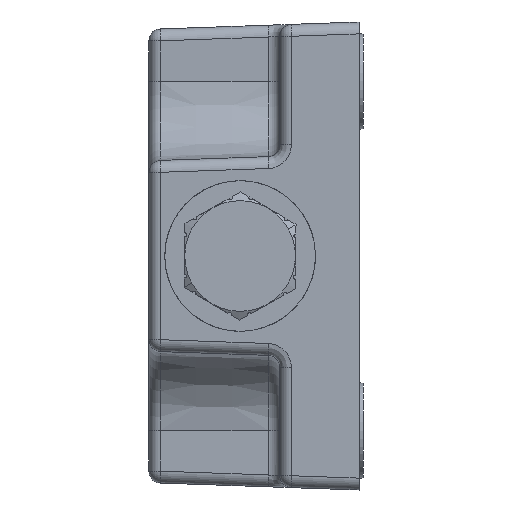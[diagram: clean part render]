
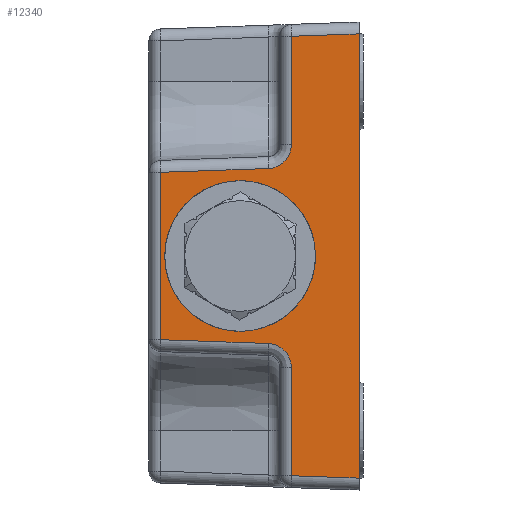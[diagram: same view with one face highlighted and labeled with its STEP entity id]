
A CAD part, left-side view. The second image highlights one B-rep face of the part: STEP entity #12340.
In plain terms, the highlighted planar face has unit normal (-0.999, 0.035, 0).
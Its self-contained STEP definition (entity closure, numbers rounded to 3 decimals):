
#610 = CARTESIAN_POINT ( 'NONE',  ( -38.553, -16.259, -9.5 ) ) ;
#864 = CARTESIAN_POINT ( 'NONE',  ( -38.114, -3.707, -27.702 ) ) ;
#1040 = DIRECTION ( 'NONE',  ( -0.035, -0.999, 0. ) ) ;
#1078 = CARTESIAN_POINT ( 'NONE',  ( -38.114, -3.707, -14.025 ) ) ;
#1162 = ORIENTED_EDGE ( 'NONE', *, *, #15311, .F. ) ;
#1630 = FACE_OUTER_BOUND ( 'NONE', #28499, .T. ) ;
#1711 = EDGE_CURVE ( 'NONE', #24058, #4830, #15096, .T. ) ;
#1738 =( BOUNDED_CURVE ( )  B_SPLINE_CURVE ( 3, ( #28946, #21633, #19437, #5133 ),
 .UNSPECIFIED., .F., .T. ) 
 B_SPLINE_CURVE_WITH_KNOTS ( ( 4, 4 ),
 ( 4.712, 7.854 ),
 .UNSPECIFIED. ) 
 CURVE ( )  GEOMETRIC_REPRESENTATION_ITEM ( )  RATIONAL_B_SPLINE_CURVE ( ( 1., 0.333, 0.333, 1. ) ) 
 REPRESENTATION_ITEM ( '' )  );
#1831 = VECTOR ( 'NONE', #6981, 1000. ) ;
#3133 = VECTOR ( 'NONE', #12257, 1000. ) ;
#3240 = ORIENTED_EDGE ( 'NONE', *, *, #6276, .T. ) ;
#3451 = CARTESIAN_POINT ( 'NONE',  ( -38.013, -0.811, 11.027 ) ) ;
#3476 = CARTESIAN_POINT ( 'NONE',  ( -38.114, -3.707, -12.316 ) ) ;
#3896 = CARTESIAN_POINT ( 'NONE',  ( -38.413, -12.259, -28.001 ) ) ;
#3910 = ORIENTED_EDGE ( 'NONE', *, *, #11294, .F. ) ;
#4219 = ORIENTED_EDGE ( 'NONE', *, *, #1711, .T. ) ;
#4308 = ORIENTED_EDGE ( 'NONE', *, *, #28342, .T. ) ;
#4649 = CARTESIAN_POINT ( 'NONE',  ( -37.889, 2.741, -9.5 ) ) ;
#4830 = VERTEX_POINT ( 'NONE', #30361 ) ;
#4983 = VERTEX_POINT ( 'NONE', #9268 ) ;
#5133 = CARTESIAN_POINT ( 'NONE',  ( -37.889, 2.741, -9.5 ) ) ;
#5875 = CARTESIAN_POINT ( 'NONE',  ( -38.073, -2.52, -11.086 ) ) ;
#5906 = EDGE_CURVE ( 'NONE', #21005, #6758, #7429, .T. ) ;
#6276 = EDGE_CURVE ( 'NONE', #29816, #9544, #15666, .T. ) ;
#6758 = VERTEX_POINT ( 'NONE', #29388 ) ;
#6847 = VERTEX_POINT ( 'NONE', #864 ) ;
#6924 = VECTOR ( 'NONE', #25056, 1000. ) ;
#6981 = DIRECTION ( 'NONE',  ( -0.035, -0.999, -0.035 ) ) ;
#7429 = LINE ( 'NONE', #21291, #1831 ) ;
#7584 = VERTEX_POINT ( 'NONE', #15624 ) ;
#7922 = CARTESIAN_POINT ( 'NONE',  ( -37.889, 2.741, 9.5 ) ) ;
#8360 = CARTESIAN_POINT ( 'NONE',  ( -38.363, -10.833, 11.377 ) ) ;
#9268 = CARTESIAN_POINT ( 'NONE',  ( -38.114, -3.707, -14.025 ) ) ;
#9311 = EDGE_LOOP ( 'NONE', ( #3910, #1162 ) ) ;
#9544 = VERTEX_POINT ( 'NONE', #17765 ) ;
#9783 = LINE ( 'NONE', #11662, #16129 ) ;
#10267 = LINE ( 'NONE', #12931, #15875 ) ;
#10497 = CARTESIAN_POINT ( 'NONE',  ( -38.013, -0.811, 11.027 ) ) ;
#11294 = EDGE_CURVE ( 'NONE', #13203, #7584, #30281, .T. ) ;
#11495 = EDGE_CURVE ( 'NONE', #4983, #6847, #10267, .T. ) ;
#11662 = CARTESIAN_POINT ( 'NONE',  ( -38.343, -10.256, 27.931 ) ) ;
#12257 = DIRECTION ( 'NONE',  ( 0., 0., -1. ) ) ;
#12340 = ADVANCED_FACE ( 'NONE', ( #27798, #1630 ), #12962, .T. ) ;
#12346 = CARTESIAN_POINT ( 'NONE',  ( -38.114, -3.707, -29.5 ) ) ;
#12850 = CARTESIAN_POINT ( 'NONE',  ( -38.413, -12.259, -29.5 ) ) ;
#12916 = CARTESIAN_POINT ( 'NONE',  ( -38.114, -3.707, 12.316 ) ) ;
#12931 = CARTESIAN_POINT ( 'NONE',  ( -38.114, -3.707, -29.5 ) ) ;
#12962 = PLANE ( 'NONE',  #24281 ) ;
#13056 = EDGE_CURVE ( 'NONE', #4983, #6758, #26623, .T. ) ;
#13203 = VERTEX_POINT ( 'NONE', #4649 ) ;
#13875 = DIRECTION ( 'NONE',  ( -0.035, -0.999, -0.035 ) ) ;
#14753 = ORIENTED_EDGE ( 'NONE', *, *, #11495, .T. ) ;
#14893 = VECTOR ( 'NONE', #17642, 1000. ) ;
#15043 = VERTEX_POINT ( 'NONE', #28455 ) ;
#15096 = LINE ( 'NONE', #12346, #3133 ) ;
#15311 = EDGE_CURVE ( 'NONE', #7584, #13203, #1738, .T. ) ;
#15322 = DIRECTION ( 'NONE',  ( 0., 0., -1. ) ) ;
#15347 = DIRECTION ( 'NONE',  ( -0.999, 0.035, 0. ) ) ;
#15624 = CARTESIAN_POINT ( 'NONE',  ( -37.889, 2.741, 9.5 ) ) ;
#15666 = LINE ( 'NONE', #29533, #14893 ) ;
#15875 = VECTOR ( 'NONE', #15322, 1000. ) ;
#16129 = VECTOR ( 'NONE', #28376, 1000. ) ;
#17642 = DIRECTION ( 'NONE',  ( 0., 0., 1. ) ) ;
#17765 = CARTESIAN_POINT ( 'NONE',  ( -38.413, -12.259, 28.001 ) ) ;
#17928 = VERTEX_POINT ( 'NONE', #3451 ) ;
#18384 = CARTESIAN_POINT ( 'NONE',  ( -37.538, 12.793, -12. ) ) ;
#19271 = CARTESIAN_POINT ( 'NONE',  ( -38.114, -3.707, 27.702 ) ) ;
#19437 = CARTESIAN_POINT ( 'NONE',  ( -37.226, 21.741, -9.5 ) ) ;
#19748 = CARTESIAN_POINT ( 'NONE',  ( -37.889, 2.741, -9.5 ) ) ;
#20069 = ORIENTED_EDGE ( 'NONE', *, *, #27515, .F. ) ;
#20786 = DIRECTION ( 'NONE',  ( 0., 0., -1. ) ) ;
#21005 = VERTEX_POINT ( 'NONE', #21136 ) ;
#21136 = CARTESIAN_POINT ( 'NONE',  ( -37.538, 12.793, -10.551 ) ) ;
#21291 = CARTESIAN_POINT ( 'NONE',  ( -38.435, -12.889, -11.448 ) ) ;
#21633 = CARTESIAN_POINT ( 'NONE',  ( -37.226, 21.741, 9.5 ) ) ;
#22238 = CARTESIAN_POINT ( 'NONE',  ( -38.553, -16.259, 9.5 ) ) ;
#22600 = CARTESIAN_POINT ( 'NONE',  ( -38.013, -0.811, -11.027 ) ) ;
#22705 = ORIENTED_EDGE ( 'NONE', *, *, #28446, .T. ) ;
#22802 = EDGE_CURVE ( 'NONE', #17928, #15043, #26007, .T. ) ;
#23012 = EDGE_CURVE ( 'NONE', #15043, #21005, #29349, .T. ) ;
#23225 = VECTOR ( 'NONE', #13875, 1000. ) ;
#23980 = ORIENTED_EDGE ( 'NONE', *, *, #22802, .T. ) ;
#24058 = VERTEX_POINT ( 'NONE', #19271 ) ;
#24281 = AXIS2_PLACEMENT_3D ( 'NONE', #12850, #15347, #1040 ) ;
#24803 = CARTESIAN_POINT ( 'NONE',  ( -38.073, -2.52, 11.086 ) ) ;
#25056 = DIRECTION ( 'NONE',  ( 0.035, 0.999, -0.035 ) ) ;
#25166 = ORIENTED_EDGE ( 'NONE', *, *, #5906, .T. ) ;
#25772 = CARTESIAN_POINT ( 'NONE',  ( -38.415, -12.311, -28.003 ) ) ;
#26007 = LINE ( 'NONE', #8360, #6924 ) ;
#26043 = ORIENTED_EDGE ( 'NONE', *, *, #23012, .T. ) ;
#26177 = ORIENTED_EDGE ( 'NONE', *, *, #13056, .F. ) ;
#26623 =( BOUNDED_CURVE ( )  B_SPLINE_CURVE ( 3, ( #1078, #3476, #5875, #22600 ),
 .UNSPECIFIED., .F., .T. ) 
 B_SPLINE_CURVE_WITH_KNOTS ( ( 4, 4 ),
 ( 0., 1.536 ),
 .UNSPECIFIED. ) 
 CURVE ( )  GEOMETRIC_REPRESENTATION_ITEM ( )  RATIONAL_B_SPLINE_CURVE ( ( 1., 0.813, 0.813, 1. ) ) 
 REPRESENTATION_ITEM ( '' )  );
#27164 =( BOUNDED_CURVE ( )  B_SPLINE_CURVE ( 3, ( #10497, #24803, #12916, #29627 ),
 .UNSPECIFIED., .F., .F. ) 
 B_SPLINE_CURVE_WITH_KNOTS ( ( 4, 4 ),
 ( 1.606, 3.142 ),
 .UNSPECIFIED. ) 
 CURVE ( )  GEOMETRIC_REPRESENTATION_ITEM ( )  RATIONAL_B_SPLINE_CURVE ( ( 1., 0.813, 0.813, 1. ) ) 
 REPRESENTATION_ITEM ( '' )  );
#27515 = EDGE_CURVE ( 'NONE', #17928, #4830, #27164, .T. ) ;
#27798 = FACE_BOUND ( 'NONE', #9311, .T. ) ;
#28342 = EDGE_CURVE ( 'NONE', #6847, #29816, #29593, .T. ) ;
#28376 = DIRECTION ( 'NONE',  ( 0.035, 0.999, -0.035 ) ) ;
#28446 = EDGE_CURVE ( 'NONE', #9544, #24058, #9783, .T. ) ;
#28455 = CARTESIAN_POINT ( 'NONE',  ( -37.538, 12.793, 10.551 ) ) ;
#28499 = EDGE_LOOP ( 'NONE', ( #20069, #23980, #26043, #25166, #26177, #14753, #4308, #3240, #22705, #4219 ) ) ;
#28601 = VECTOR ( 'NONE', #20786, 1000. ) ;
#28946 = CARTESIAN_POINT ( 'NONE',  ( -37.889, 2.741, 9.5 ) ) ;
#29349 = LINE ( 'NONE', #18384, #28601 ) ;
#29388 = CARTESIAN_POINT ( 'NONE',  ( -38.013, -0.811, -11.027 ) ) ;
#29533 = CARTESIAN_POINT ( 'NONE',  ( -38.413, -12.259, -29.5 ) ) ;
#29593 = LINE ( 'NONE', #25772, #23225 ) ;
#29627 = CARTESIAN_POINT ( 'NONE',  ( -38.114, -3.707, 14.025 ) ) ;
#29816 = VERTEX_POINT ( 'NONE', #3896 ) ;
#30281 =( BOUNDED_CURVE ( )  B_SPLINE_CURVE ( 3, ( #19748, #610, #22238, #7922 ),
 .UNSPECIFIED., .F., .T. ) 
 B_SPLINE_CURVE_WITH_KNOTS ( ( 4, 4 ),
 ( 1.571, 4.712 ),
 .UNSPECIFIED. ) 
 CURVE ( )  GEOMETRIC_REPRESENTATION_ITEM ( )  RATIONAL_B_SPLINE_CURVE ( ( 1., 0.333, 0.333, 1. ) ) 
 REPRESENTATION_ITEM ( '' )  );
#30361 = CARTESIAN_POINT ( 'NONE',  ( -38.114, -3.707, 14.025 ) ) ;
